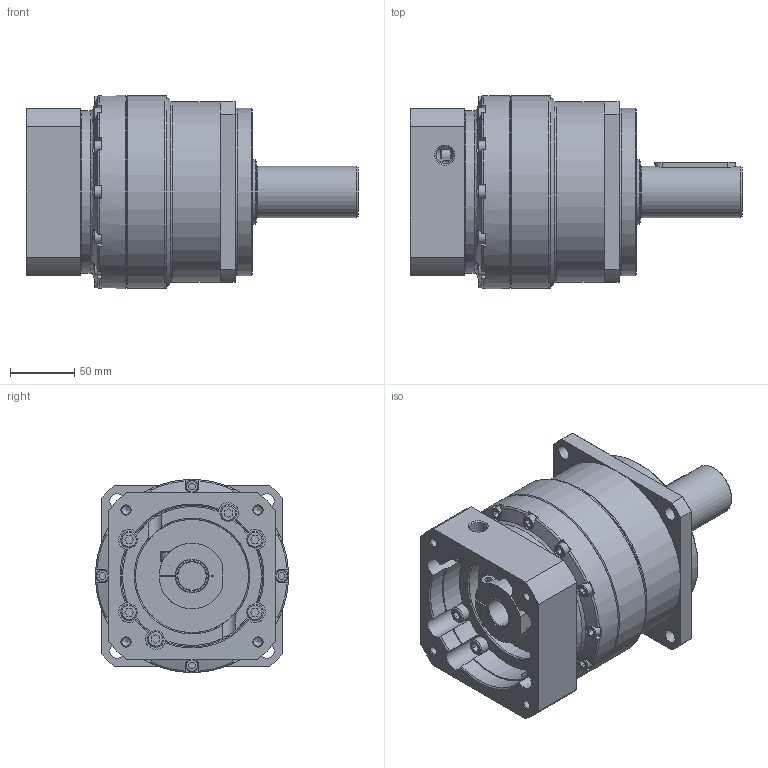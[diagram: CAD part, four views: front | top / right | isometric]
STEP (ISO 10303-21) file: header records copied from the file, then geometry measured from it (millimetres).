
FILE_DESCRIPTION(/* description */ (''),/* implementation_level */ '2;1');
FILE_NAME(/* name */ 'WEB140-L1-110-145-M8-22-60.stp',/* time_stamp */ '2025-11-28T15:57:47+08:00',/* author */ (''),/* organization */ (''),/* preprocessor_version */ 'ST-DEVELOPER v16.7',/* originating_system */ 'SIEMENS PLM Software NX 12.0',/* authorisation */ '');
FILE_SCHEMA (('AUTOMOTIVE_DESIGN { 1 0 10303 214 3 1 1 1 }'));
Length unit declared in the file: millimetre
Products named in the file (7): WEB140-; WEB140-FL; 180A_rear_id63_stp; DZ142-110-145-M8x20-14-130-42.5_id79_stp; RLZ140-22-60-20.5_Input shaft4_id95_stp; 115-SJT_M8_-26_Lock sleeve_id111_stp; WVRB140-L1-3-P2-110-145-M8-22-60-130_M_stp
Assembly tree (6 placements, depth 2):
  WVRB140-L1-3-P2-110-145-M8-22-60-130_M_stp
    115-SJT_M8_-26_Lock sleeve_id111_stp
    RLZ140-22-60-20.5_Input shaft4_id95_stp
    DZ142-110-145-M8x20-14-130-42.5_id79_stp
    180A_rear_id63_stp
    WEB140-FL
    WEB140-
Bounding box: 258 x 150 x 150 mm (x, y, z)
Volume: 2616797.3 mm3; surface area: 240947.3 mm2
Topology: 5 solids, 5 shells, 436 faces, 1086 edges, 708 vertices
Faces by surface type: plane 250, cylinder 98, cone 53, torus 35
Full cylindrical faces by diameter (mm): 6.647 x4, 8 x1, 10 x12, 11 x4, 12.88 x1, 13 x7, 13.6 x2, 13.835 x1, 17 x1, 22 x1, 26 x1, 30.5 x1, 40 x1, 45 x2, 50 x1, 88 x1, 110 x1, 125 x1, 126 x1, 130 x1, 140 x1, 150 x2
Entity records: 14109 total; most frequent: CARTESIAN_POINT 2840, DIRECTION 2023, ORIENTED_EDGE 1910, EDGE_CURVE 955, AXIS2_PLACEMENT_3D 747, VERTEX_POINT 682, EDGE_LOOP 602, LINE 529
